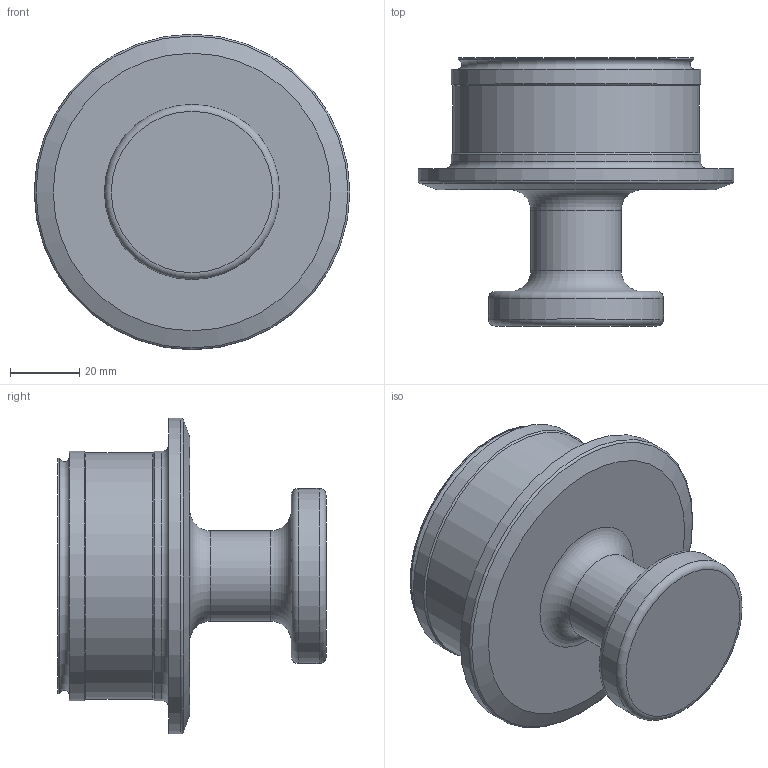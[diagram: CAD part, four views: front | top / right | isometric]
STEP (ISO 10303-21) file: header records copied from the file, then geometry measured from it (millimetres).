
FILE_DESCRIPTION( ( 'Unknown' ), '1' );
FILE_NAME( 'Z:/U_Proces/dokumentation new/Mechanical parts/7000 3D Step filer/7000-/7000273/ZPX5-92.stp', 'Unknown', ( 'Unknown' ), ( 'Unknown' ), 'PSStep 15.0.49', 'Unknown', ' ' );
FILE_SCHEMA( ( 'AUTOMOTIVE_DESIGN { 1 0 10303 214 1 1 1 1 }' ) );
Length unit declared in the file: millimetre
Products named in the file (1): 1
Bounding box: 91 x 77.3 x 91 mm (x, y, z)
Volume: 200469.8 mm3; surface area: 27643.8 mm2
Topology: 1 solids, 1 shells, 24 faces, 50 edges, 32 vertices
Faces by surface type: torus 8, cylinder 7, plane 6, cone 3
Full cylindrical faces by diameter (mm): 26 x1, 50.5 x1, 68 x1, 71 x1, 71.9 x2, 91 x1
Entity records: 682 total; most frequent: DIRECTION 96, CARTESIAN_POINT 71, AXIS2_PLACEMENT_3D 48, EDGE_LOOP 46, ORIENTED_EDGE 46, FACE_OUTER_BOUND 39, STYLED_ITEM 24, PRESENTATION_STYLE_ASSIGNMENT 24
